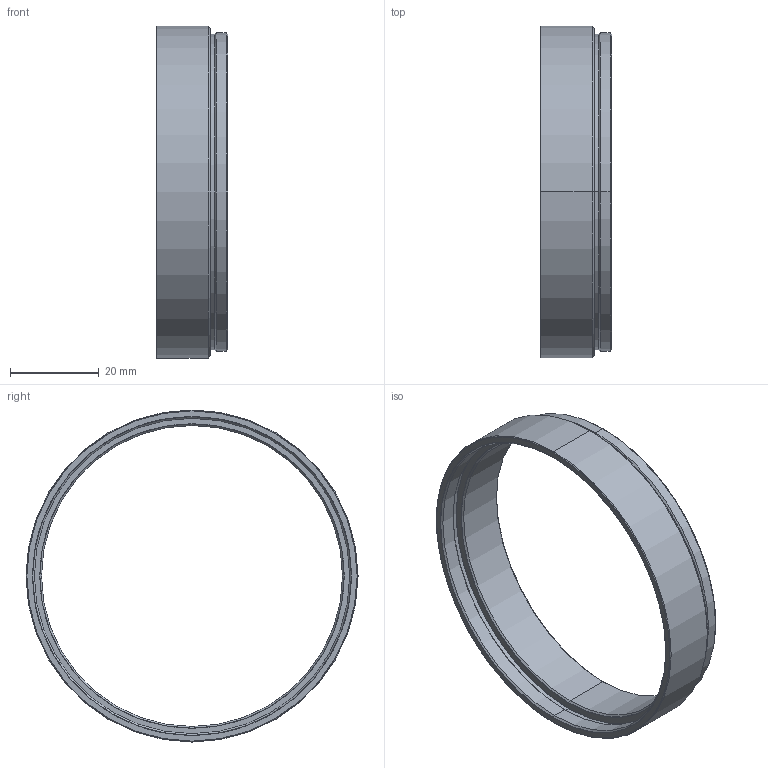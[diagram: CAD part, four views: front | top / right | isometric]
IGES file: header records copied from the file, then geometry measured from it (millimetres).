
Start section: SolidWorks IGES file using analytic representation for surfaces
Bounding box: 16.25 x 75 x 75 mm (x, y, z)
Surface area: 8835.3 mm2 (no closed solid volume)
Topology: 0 solids, 0 shells, 32 faces, 624 edges, 624 vertices
Faces by surface type: revolution 28, bspline 4
